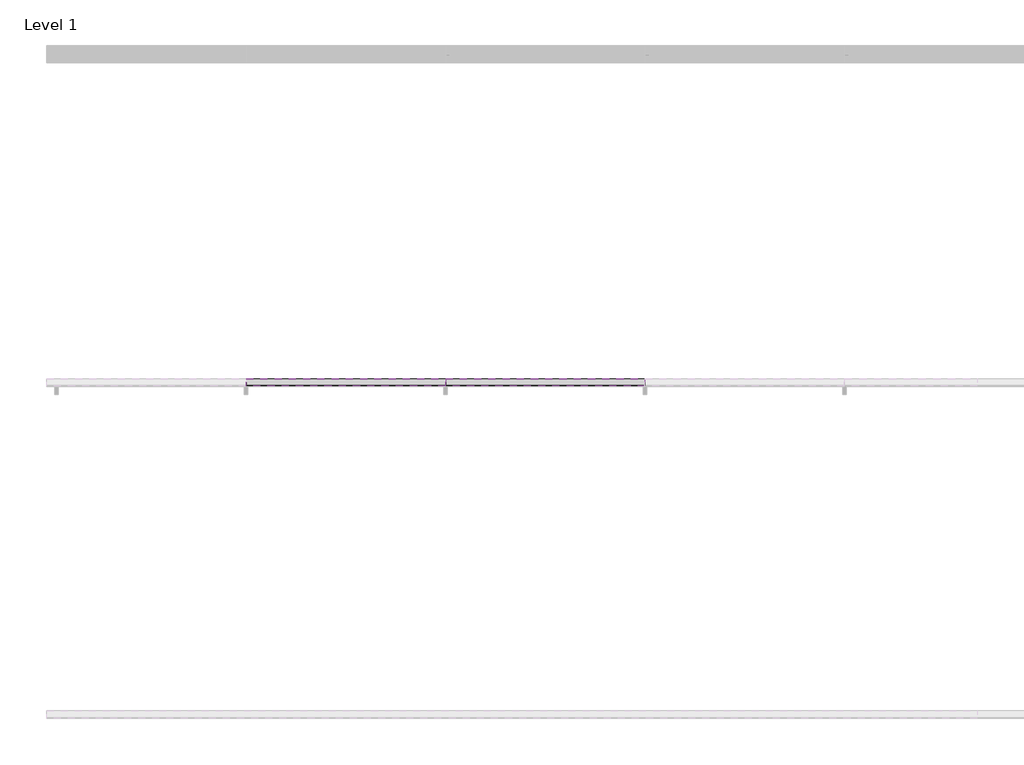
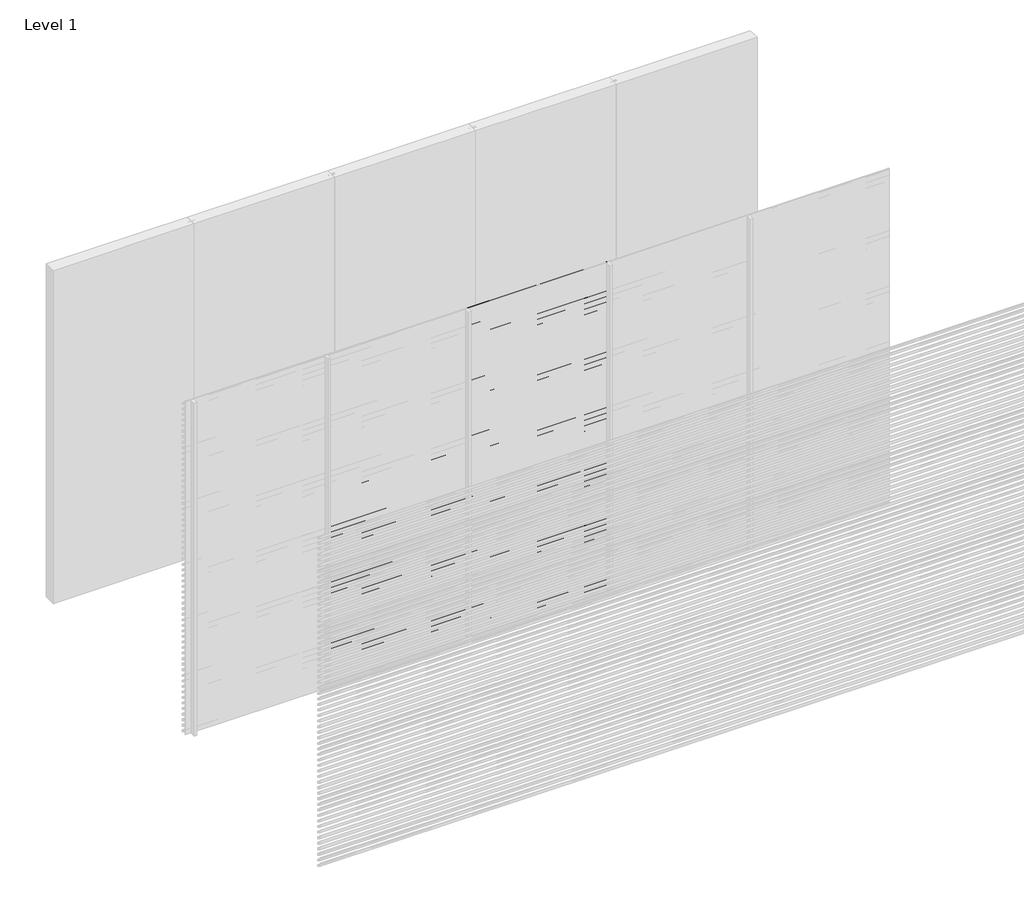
# One storey, part 11 of 16: 94 proxies.
"""IFC4 building model written with IfcOpenShell, lengths in millimetres."""

from ifc_helpers import new_model, si_unit, frame, origin, place, context, project, spatial, polyline, outline, extrude, element, save

model = new_model("IFC4")

# Units and contexts
model_context = context("Model", 3, world=origin())
ifc_project = project(units=[si_unit("LENGTHUNIT", "METRE", prefix="MILLI")], contexts=[model_context])

# Site, building, storey
site = spatial("IfcSite", under=ifc_project)
building = spatial("IfcBuilding", under=site)
storey = spatial("IfcBuildingStorey", under=building, Name="Level 1", Elevation=0.0)

# Proxies
placement = place(None, origin())
element("IfcBuildingElementProxy", 1, Name="Wall Sweeps", at=placement, inside=storey, context=model_context, shape_type="SweptSolid", body=[
    extrude(outline(polyline([(-5995.0, 1750.0), (-5995.0, 1739.6352854), (-5954.0, 1715.0), (-5954.0, 1700.0), (-5997.0, 1725.8370066), (-5997.0, 1750.0), (-5995.0, 1750.0)])), frame((1200.0, 0.0, 0.0), z_axis=(1.0, 0.0, 0.0), x_axis=(0.0, 1.0, 0.0)), (0.0, 0.0, 1.0), 1200.0),
])
element("IfcBuildingElementProxy", 2, Name="Wall Sweeps", at=placement, inside=storey, context=model_context, shape_type="SweptSolid", body=[
    extrude(outline(polyline([(-5995.0, 1700.0), (-5995.0, 1689.6352854), (-5954.0, 1665.0), (-5954.0, 1650.0), (-5997.0, 1675.8370066), (-5997.0, 1700.0), (-5995.0, 1700.0)])), frame((1200.0, 0.0, 0.0), z_axis=(1.0, 0.0, 0.0), x_axis=(0.0, 1.0, 0.0)), (0.0, 0.0, 1.0), 1200.0),
])
element("IfcBuildingElementProxy", 3, Name="Wall Sweeps", at=placement, inside=storey, context=model_context, shape_type="SweptSolid", body=[
    extrude(outline(polyline([(-5995.0, 1650.0), (-5995.0, 1639.6352854), (-5954.0, 1615.0), (-5954.0, 1600.0), (-5997.0, 1625.8370066), (-5997.0, 1650.0), (-5995.0, 1650.0)])), frame((1200.0, 0.0, 0.0), z_axis=(1.0, 0.0, 0.0), x_axis=(0.0, 1.0, 0.0)), (0.0, 0.0, 1.0), 1200.0),
])
element("IfcBuildingElementProxy", 4, Name="Wall Sweeps", at=placement, inside=storey, context=model_context, shape_type="SweptSolid", body=[
    extrude(outline(polyline([(-5995.0, 1600.0), (-5995.0, 1589.6352854), (-5954.0, 1565.0), (-5954.0, 1550.0), (-5997.0, 1575.8370066), (-5997.0, 1600.0), (-5995.0, 1600.0)])), frame((1200.0, 0.0, 0.0), z_axis=(1.0, 0.0, 0.0), x_axis=(0.0, 1.0, 0.0)), (0.0, 0.0, 1.0), 1200.0),
])
element("IfcBuildingElementProxy", 5, Name="Wall Sweeps", at=placement, inside=storey, context=model_context, shape_type="SweptSolid", body=[
    extrude(outline(polyline([(-5995.0, 1550.0), (-5995.0, 1539.6352854), (-5954.0, 1515.0), (-5954.0, 1500.0), (-5997.0, 1525.8370066), (-5997.0, 1550.0), (-5995.0, 1550.0)])), frame((1200.0, 0.0, 0.0), z_axis=(1.0, 0.0, 0.0), x_axis=(0.0, 1.0, 0.0)), (0.0, 0.0, 1.0), 1200.0),
])
element("IfcBuildingElementProxy", 6, Name="Wall Sweeps", at=placement, inside=storey, context=model_context, shape_type="SweptSolid", body=[
    extrude(outline(polyline([(-5995.0, 1500.0), (-5995.0, 1489.6352854), (-5954.0, 1465.0), (-5954.0, 1450.0), (-5997.0, 1475.8370066), (-5997.0, 1500.0), (-5995.0, 1500.0)])), frame((1200.0, 0.0, 0.0), z_axis=(1.0, 0.0, 0.0), x_axis=(0.0, 1.0, 0.0)), (0.0, 0.0, 1.0), 1200.0),
])
element("IfcBuildingElementProxy", 7, Name="Wall Sweeps", at=placement, inside=storey, context=model_context, shape_type="SweptSolid", body=[
    extrude(outline(polyline([(-5995.0, 1450.0), (-5995.0, 1439.6352854), (-5954.0, 1415.0), (-5954.0, 1400.0), (-5997.0, 1425.8370066), (-5997.0, 1450.0), (-5995.0, 1450.0)])), frame((1200.0, 0.0, 0.0), z_axis=(1.0, 0.0, 0.0), x_axis=(0.0, 1.0, 0.0)), (0.0, 0.0, 1.0), 1200.0),
])
element("IfcBuildingElementProxy", 8, Name="Wall Sweeps", at=placement, inside=storey, context=model_context, shape_type="SweptSolid", body=[
    extrude(outline(polyline([(-5995.0, 1400.0), (-5995.0, 1389.6352854), (-5954.0, 1365.0), (-5954.0, 1350.0), (-5997.0, 1375.8370066), (-5997.0, 1400.0), (-5995.0, 1400.0)])), frame((1200.0, 0.0, 0.0), z_axis=(1.0, 0.0, 0.0), x_axis=(0.0, 1.0, 0.0)), (0.0, 0.0, 1.0), 1200.0),
])
element("IfcBuildingElementProxy", 9, Name="Wall Sweeps", at=placement, inside=storey, context=model_context, shape_type="SweptSolid", body=[
    extrude(outline(polyline([(-5995.0, 1350.0), (-5995.0, 1339.6352854), (-5954.0, 1315.0), (-5954.0, 1300.0), (-5997.0, 1325.8370066), (-5997.0, 1350.0), (-5995.0, 1350.0)])), frame((1200.0, 0.0, 0.0), z_axis=(1.0, 0.0, 0.0), x_axis=(0.0, 1.0, 0.0)), (0.0, 0.0, 1.0), 1200.0),
])
element("IfcBuildingElementProxy", 10, Name="Wall Sweeps", at=placement, inside=storey, context=model_context, shape_type="SweptSolid", body=[
    extrude(outline(polyline([(-5995.0, 1300.0), (-5995.0, 1289.6352854), (-5954.0, 1265.0), (-5954.0, 1250.0), (-5997.0, 1275.8370066), (-5997.0, 1300.0), (-5995.0, 1300.0)])), frame((1200.0, 0.0, 0.0), z_axis=(1.0, 0.0, 0.0), x_axis=(0.0, 1.0, 0.0)), (0.0, 0.0, 1.0), 1200.0),
])
element("IfcBuildingElementProxy", 11, Name="Wall Sweeps", at=placement, inside=storey, context=model_context, shape_type="SweptSolid", body=[
    extrude(outline(polyline([(-5995.0, 1250.0), (-5995.0, 1239.6352854), (-5954.0, 1215.0), (-5954.0, 1200.0), (-5997.0, 1225.8370066), (-5997.0, 1250.0), (-5995.0, 1250.0)])), frame((1200.0, 0.0, 0.0), z_axis=(1.0, 0.0, 0.0), x_axis=(0.0, 1.0, 0.0)), (0.0, 0.0, 1.0), 1200.0),
])
element("IfcBuildingElementProxy", 12, Name="Wall Sweeps", at=placement, inside=storey, context=model_context, shape_type="SweptSolid", body=[
    extrude(outline(polyline([(-5995.0, 1200.0), (-5995.0, 1189.6352854), (-5954.0, 1165.0), (-5954.0, 1150.0), (-5997.0, 1175.8370066), (-5997.0, 1200.0), (-5995.0, 1200.0)])), frame((1200.0, 0.0, 0.0), z_axis=(1.0, 0.0, 0.0), x_axis=(0.0, 1.0, 0.0)), (0.0, 0.0, 1.0), 1200.0),
])
element("IfcBuildingElementProxy", 13, Name="Wall Sweeps", at=placement, inside=storey, context=model_context, shape_type="SweptSolid", body=[
    extrude(outline(polyline([(-5995.0, 1150.0), (-5995.0, 1139.6352854), (-5954.0, 1115.0), (-5954.0, 1100.0), (-5997.0, 1125.8370066), (-5997.0, 1150.0), (-5995.0, 1150.0)])), frame((1200.0, 0.0, 0.0), z_axis=(1.0, 0.0, 0.0), x_axis=(0.0, 1.0, 0.0)), (0.0, 0.0, 1.0), 1200.0),
])
element("IfcBuildingElementProxy", 14, Name="Wall Sweeps", at=placement, inside=storey, context=model_context, shape_type="SweptSolid", body=[
    extrude(outline(polyline([(-5995.0, 1100.0), (-5995.0, 1089.6352854), (-5954.0, 1065.0), (-5954.0, 1050.0), (-5997.0, 1075.8370066), (-5997.0, 1100.0), (-5995.0, 1100.0)])), frame((1200.0, 0.0, 0.0), z_axis=(1.0, 0.0, 0.0), x_axis=(0.0, 1.0, 0.0)), (0.0, 0.0, 1.0), 1200.0),
])
element("IfcBuildingElementProxy", 15, Name="Wall Sweeps", at=placement, inside=storey, context=model_context, shape_type="SweptSolid", body=[
    extrude(outline(polyline([(-5995.0, 1050.0), (-5995.0, 1039.6352854), (-5954.0, 1015.0), (-5954.0, 1000.0), (-5997.0, 1025.8370066), (-5997.0, 1050.0), (-5995.0, 1050.0)])), frame((1200.0, 0.0, 0.0), z_axis=(1.0, 0.0, 0.0), x_axis=(0.0, 1.0, 0.0)), (0.0, 0.0, 1.0), 1200.0),
])
element("IfcBuildingElementProxy", 16, Name="Wall Sweeps", at=placement, inside=storey, context=model_context, shape_type="SweptSolid", body=[
    extrude(outline(polyline([(-5995.0, 1000.0), (-5995.0, 989.6352854), (-5954.0, 965.0), (-5954.0, 950.0), (-5997.0, 975.8370066), (-5997.0, 1000.0), (-5995.0, 1000.0)])), frame((1200.0, 0.0, 0.0), z_axis=(1.0, 0.0, 0.0), x_axis=(0.0, 1.0, 0.0)), (0.0, 0.0, 1.0), 1200.0),
])
element("IfcBuildingElementProxy", 17, Name="Wall Sweeps", at=placement, inside=storey, context=model_context, shape_type="SweptSolid", body=[
    extrude(outline(polyline([(-5995.0, 950.0), (-5995.0, 939.6352854), (-5954.0, 915.0), (-5954.0, 900.0), (-5997.0, 925.8370066), (-5997.0, 950.0), (-5995.0, 950.0)])), frame((1200.0, 0.0, 0.0), z_axis=(1.0, 0.0, 0.0), x_axis=(0.0, 1.0, 0.0)), (0.0, 0.0, 1.0), 1200.0),
])
element("IfcBuildingElementProxy", 18, Name="Wall Sweeps", at=placement, inside=storey, context=model_context, shape_type="SweptSolid", body=[
    extrude(outline(polyline([(-5995.0, 900.0), (-5995.0, 889.6352854), (-5954.0, 865.0), (-5954.0, 850.0), (-5997.0, 875.8370066), (-5997.0, 900.0), (-5995.0, 900.0)])), frame((1200.0, 0.0, 0.0), z_axis=(1.0, 0.0, 0.0), x_axis=(0.0, 1.0, 0.0)), (0.0, 0.0, 1.0), 1200.0),
])
element("IfcBuildingElementProxy", 19, Name="Wall Sweeps", at=placement, inside=storey, context=model_context, shape_type="SweptSolid", body=[
    extrude(outline(polyline([(-5995.0, 850.0), (-5995.0, 839.6352854), (-5954.0, 815.0), (-5954.0, 800.0), (-5997.0, 825.8370066), (-5997.0, 850.0), (-5995.0, 850.0)])), frame((1200.0, 0.0, 0.0), z_axis=(1.0, 0.0, 0.0), x_axis=(0.0, 1.0, 0.0)), (0.0, 0.0, 1.0), 1200.0),
])
element("IfcBuildingElementProxy", 20, Name="Wall Sweeps", at=placement, inside=storey, context=model_context, shape_type="SweptSolid", body=[
    extrude(outline(polyline([(-5995.0, 800.0), (-5995.0, 789.6352854), (-5954.0, 765.0), (-5954.0, 750.0), (-5997.0, 775.8370066), (-5997.0, 800.0), (-5995.0, 800.0)])), frame((1200.0, 0.0, 0.0), z_axis=(1.0, 0.0, 0.0), x_axis=(0.0, 1.0, 0.0)), (0.0, 0.0, 1.0), 1200.0),
])
element("IfcBuildingElementProxy", 21, Name="Wall Sweeps", at=placement, inside=storey, context=model_context, shape_type="SweptSolid", body=[
    extrude(outline(polyline([(-5995.0, 750.0), (-5995.0, 739.6352854), (-5954.0, 715.0), (-5954.0, 700.0), (-5997.0, 725.8370066), (-5997.0, 750.0), (-5995.0, 750.0)])), frame((1200.0, 0.0, 0.0), z_axis=(1.0, 0.0, 0.0), x_axis=(0.0, 1.0, 0.0)), (0.0, 0.0, 1.0), 1200.0),
])
element("IfcBuildingElementProxy", 22, Name="Wall Sweeps", at=placement, inside=storey, context=model_context, shape_type="SweptSolid", body=[
    extrude(outline(polyline([(-5995.0, 700.0), (-5995.0, 689.6352854), (-5954.0, 665.0), (-5954.0, 650.0), (-5997.0, 675.8370066), (-5997.0, 700.0), (-5995.0, 700.0)])), frame((1200.0, 0.0, 0.0), z_axis=(1.0, 0.0, 0.0), x_axis=(0.0, 1.0, 0.0)), (0.0, 0.0, 1.0), 1200.0),
])
element("IfcBuildingElementProxy", 23, Name="Wall Sweeps", at=placement, inside=storey, context=model_context, shape_type="SweptSolid", body=[
    extrude(outline(polyline([(-5995.0, 650.0), (-5995.0, 639.6352854), (-5954.0, 615.0), (-5954.0, 600.0), (-5997.0, 625.8370066), (-5997.0, 650.0), (-5995.0, 650.0)])), frame((1200.0, 0.0, 0.0), z_axis=(1.0, 0.0, 0.0), x_axis=(0.0, 1.0, 0.0)), (0.0, 0.0, 1.0), 1200.0),
])
element("IfcBuildingElementProxy", 24, Name="Wall Sweeps", at=placement, inside=storey, context=model_context, shape_type="SweptSolid", body=[
    extrude(outline(polyline([(-5995.0, 600.0), (-5995.0, 589.6352854), (-5954.0, 565.0), (-5954.0, 550.0), (-5997.0, 575.8370066), (-5997.0, 600.0), (-5995.0, 600.0)])), frame((1200.0, 0.0, 0.0), z_axis=(1.0, 0.0, 0.0), x_axis=(0.0, 1.0, 0.0)), (0.0, 0.0, 1.0), 1200.0),
])
element("IfcBuildingElementProxy", 25, Name="Wall Sweeps", at=placement, inside=storey, context=model_context, shape_type="SweptSolid", body=[
    extrude(outline(polyline([(-5995.0, 550.0), (-5995.0, 539.6352854), (-5954.0, 515.0), (-5954.0, 500.0), (-5997.0, 525.8370066), (-5997.0, 550.0), (-5995.0, 550.0)])), frame((1200.0, 0.0, 0.0), z_axis=(1.0, 0.0, 0.0), x_axis=(0.0, 1.0, 0.0)), (0.0, 0.0, 1.0), 1200.0),
])
element("IfcBuildingElementProxy", 26, Name="Wall Sweeps", at=placement, inside=storey, context=model_context, shape_type="SweptSolid", body=[
    extrude(outline(polyline([(-5995.0, 500.0), (-5995.0, 489.6352854), (-5954.0, 465.0), (-5954.0, 450.0), (-5997.0, 475.8370066), (-5997.0, 500.0), (-5995.0, 500.0)])), frame((1200.0, 0.0, 0.0), z_axis=(1.0, 0.0, 0.0), x_axis=(0.0, 1.0, 0.0)), (0.0, 0.0, 1.0), 1200.0),
])
element("IfcBuildingElementProxy", 27, Name="Wall Sweeps", at=placement, inside=storey, context=model_context, shape_type="SweptSolid", body=[
    extrude(outline(polyline([(-5995.0, 450.0), (-5995.0, 439.6352854), (-5954.0, 415.0), (-5954.0, 400.0), (-5997.0, 425.8370066), (-5997.0, 450.0), (-5995.0, 450.0)])), frame((1200.0, 0.0, 0.0), z_axis=(1.0, 0.0, 0.0), x_axis=(0.0, 1.0, 0.0)), (0.0, 0.0, 1.0), 1200.0),
])
element("IfcBuildingElementProxy", 28, Name="Wall Sweeps", at=placement, inside=storey, context=model_context, shape_type="SweptSolid", body=[
    extrude(outline(polyline([(-5995.0, 400.0), (-5995.0, 389.6352854), (-5954.0, 365.0), (-5954.0, 350.0), (-5997.0, 375.8370066), (-5997.0, 400.0), (-5995.0, 400.0)])), frame((1200.0, 0.0, 0.0), z_axis=(1.0, 0.0, 0.0), x_axis=(0.0, 1.0, 0.0)), (0.0, 0.0, 1.0), 1200.0),
])
element("IfcBuildingElementProxy", 29, Name="Wall Sweeps", at=placement, inside=storey, context=model_context, shape_type="SweptSolid", body=[
    extrude(outline(polyline([(-5995.0, 350.0), (-5995.0, 339.6352854), (-5954.0, 315.0), (-5954.0, 300.0), (-5997.0, 325.8370066), (-5997.0, 350.0), (-5995.0, 350.0)])), frame((1200.0, 0.0, 0.0), z_axis=(1.0, 0.0, 0.0), x_axis=(0.0, 1.0, 0.0)), (0.0, 0.0, 1.0), 1200.0),
])
element("IfcBuildingElementProxy", 30, Name="Wall Sweeps", at=placement, inside=storey, context=model_context, shape_type="SweptSolid", body=[
    extrude(outline(polyline([(-5995.0, 300.0), (-5995.0, 289.6352854), (-5954.0, 265.0), (-5954.0, 250.0), (-5997.0, 275.8370066), (-5997.0, 300.0), (-5995.0, 300.0)])), frame((1200.0, 0.0, 0.0), z_axis=(1.0, 0.0, 0.0), x_axis=(0.0, 1.0, 0.0)), (0.0, 0.0, 1.0), 1200.0),
])
element("IfcBuildingElementProxy", 31, Name="Wall Sweeps", at=placement, inside=storey, context=model_context, shape_type="SweptSolid", body=[
    extrude(outline(polyline([(-5995.0, 250.0), (-5995.0, 239.6352854), (-5954.0, 215.0), (-5954.0, 200.0), (-5997.0, 225.8370066), (-5997.0, 250.0), (-5995.0, 250.0)])), frame((1200.0, 0.0, 0.0), z_axis=(1.0, 0.0, 0.0), x_axis=(0.0, 1.0, 0.0)), (0.0, 0.0, 1.0), 1200.0),
])
element("IfcBuildingElementProxy", 32, Name="Wall Sweeps", at=placement, inside=storey, context=model_context, shape_type="SweptSolid", body=[
    extrude(outline(polyline([(-5995.0, 200.0), (-5995.0, 189.6352854), (-5954.0, 165.0), (-5954.0, 150.0), (-5997.0, 175.8370066), (-5997.0, 200.0), (-5995.0, 200.0)])), frame((1200.0, 0.0, 0.0), z_axis=(1.0, 0.0, 0.0), x_axis=(0.0, 1.0, 0.0)), (0.0, 0.0, 1.0), 1200.0),
])
element("IfcBuildingElementProxy", 33, Name="Wall Sweeps", at=placement, inside=storey, context=model_context, shape_type="SweptSolid", body=[
    extrude(outline(polyline([(-5995.0, 150.0), (-5995.0, 139.6352854), (-5954.0, 115.0), (-5954.0, 100.0), (-5997.0, 125.8370066), (-5997.0, 150.0), (-5995.0, 150.0)])), frame((1200.0, 0.0, 0.0), z_axis=(1.0, 0.0, 0.0), x_axis=(0.0, 1.0, 0.0)), (0.0, 0.0, 1.0), 1200.0),
])
element("IfcBuildingElementProxy", 34, Name="Wall Sweeps", at=placement, inside=storey, context=model_context, shape_type="SweptSolid", body=[
    extrude(outline(polyline([(-5995.0, 100.0), (-5995.0, 89.6352854), (-5954.0, 65.0), (-5954.0, 50.0), (-5997.0, 75.8370066), (-5997.0, 100.0), (-5995.0, 100.0)])), frame((1200.0, 0.0, 0.0), z_axis=(1.0, 0.0, 0.0), x_axis=(0.0, 1.0, 0.0)), (0.0, 0.0, 1.0), 1200.0),
])
element("IfcBuildingElementProxy", 35, Name="Wall Sweeps", at=placement, inside=storey, context=model_context, shape_type="SweptSolid", body=[
    extrude(outline(polyline([(-5995.0, 50.0), (-5995.0, 39.6352854), (-5954.0, 15.0), (-5954.0, 0.0), (-5997.0, 25.8370066), (-5997.0, 50.0), (-5995.0, 50.0)])), frame((1200.0, 0.0, 0.0), z_axis=(1.0, 0.0, 0.0), x_axis=(0.0, 1.0, 0.0)), (0.0, 0.0, 1.0), 1200.0),
])
element("IfcBuildingElementProxy", 36, Name="Wall Sweeps", at=placement, inside=storey, context=model_context, shape_type="SweptSolid", body=[
    extrude(outline(polyline([(-5995.0, 3000.0), (-5995.0, 2989.6352854), (-5954.0, 2965.0), (-5954.0, 2950.0), (-5997.0, 2975.8370066), (-5997.0, 3000.0), (-5995.0, 3000.0)])), frame((2400.0, 0.0, 0.0), z_axis=(1.0, 0.0, 0.0), x_axis=(0.0, 1.0, 0.0)), (0.0, 0.0, 1.0), 1200.0),
])
element("IfcBuildingElementProxy", 37, Name="Wall Sweeps", at=placement, inside=storey, context=model_context, shape_type="SweptSolid", body=[
    extrude(outline(polyline([(-5995.0, 2950.0), (-5995.0, 2939.6352854), (-5954.0, 2915.0), (-5954.0, 2900.0), (-5997.0, 2925.8370066), (-5997.0, 2950.0), (-5995.0, 2950.0)])), frame((2400.0, 0.0, 0.0), z_axis=(1.0, 0.0, 0.0), x_axis=(0.0, 1.0, 0.0)), (0.0, 0.0, 1.0), 1200.0),
])
element("IfcBuildingElementProxy", 38, Name="Wall Sweeps", at=placement, inside=storey, context=model_context, shape_type="SweptSolid", body=[
    extrude(outline(polyline([(-5995.0, 2900.0), (-5995.0, 2889.6352854), (-5954.0, 2865.0), (-5954.0, 2850.0), (-5997.0, 2875.8370066), (-5997.0, 2900.0), (-5995.0, 2900.0)])), frame((2400.0, 0.0, 0.0), z_axis=(1.0, 0.0, 0.0), x_axis=(0.0, 1.0, 0.0)), (0.0, 0.0, 1.0), 1200.0),
])
element("IfcBuildingElementProxy", 39, Name="Wall Sweeps", at=placement, inside=storey, context=model_context, shape_type="SweptSolid", body=[
    extrude(outline(polyline([(-5995.0, 2850.0), (-5995.0, 2839.6352854), (-5954.0, 2815.0), (-5954.0, 2800.0), (-5997.0, 2825.8370066), (-5997.0, 2850.0), (-5995.0, 2850.0)])), frame((2400.0, 0.0, 0.0), z_axis=(1.0, 0.0, 0.0), x_axis=(0.0, 1.0, 0.0)), (0.0, 0.0, 1.0), 1200.0),
])
element("IfcBuildingElementProxy", 40, Name="Wall Sweeps", at=placement, inside=storey, context=model_context, shape_type="SweptSolid", body=[
    extrude(outline(polyline([(-5995.0, 2800.0), (-5995.0, 2789.6352854), (-5954.0, 2765.0), (-5954.0, 2750.0), (-5997.0, 2775.8370066), (-5997.0, 2800.0), (-5995.0, 2800.0)])), frame((2400.0, 0.0, 0.0), z_axis=(1.0, 0.0, 0.0), x_axis=(0.0, 1.0, 0.0)), (0.0, 0.0, 1.0), 1200.0),
])
element("IfcBuildingElementProxy", 41, Name="Wall Sweeps", at=placement, inside=storey, context=model_context, shape_type="SweptSolid", body=[
    extrude(outline(polyline([(-5995.0, 2750.0), (-5995.0, 2739.6352854), (-5954.0, 2715.0), (-5954.0, 2700.0), (-5997.0, 2725.8370066), (-5997.0, 2750.0), (-5995.0, 2750.0)])), frame((2400.0, 0.0, 0.0), z_axis=(1.0, 0.0, 0.0), x_axis=(0.0, 1.0, 0.0)), (0.0, 0.0, 1.0), 1200.0),
])
element("IfcBuildingElementProxy", 42, Name="Wall Sweeps", at=placement, inside=storey, context=model_context, shape_type="SweptSolid", body=[
    extrude(outline(polyline([(-5995.0, 2700.0), (-5995.0, 2689.6352854), (-5954.0, 2665.0), (-5954.0, 2650.0), (-5997.0, 2675.8370066), (-5997.0, 2700.0), (-5995.0, 2700.0)])), frame((2400.0, 0.0, 0.0), z_axis=(1.0, 0.0, 0.0), x_axis=(0.0, 1.0, 0.0)), (0.0, 0.0, 1.0), 1200.0),
])
element("IfcBuildingElementProxy", 43, Name="Wall Sweeps", at=placement, inside=storey, context=model_context, shape_type="SweptSolid", body=[
    extrude(outline(polyline([(-5995.0, 2650.0), (-5995.0, 2639.6352854), (-5954.0, 2615.0), (-5954.0, 2600.0), (-5997.0, 2625.8370066), (-5997.0, 2650.0), (-5995.0, 2650.0)])), frame((2400.0, 0.0, 0.0), z_axis=(1.0, 0.0, 0.0), x_axis=(0.0, 1.0, 0.0)), (0.0, 0.0, 1.0), 1200.0),
])
element("IfcBuildingElementProxy", 44, Name="Wall Sweeps", at=placement, inside=storey, context=model_context, shape_type="SweptSolid", body=[
    extrude(outline(polyline([(-5995.0, 2600.0), (-5995.0, 2589.6352854), (-5954.0, 2565.0), (-5954.0, 2550.0), (-5997.0, 2575.8370066), (-5997.0, 2600.0), (-5995.0, 2600.0)])), frame((2400.0, 0.0, 0.0), z_axis=(1.0, 0.0, 0.0), x_axis=(0.0, 1.0, 0.0)), (0.0, 0.0, 1.0), 1200.0),
])
element("IfcBuildingElementProxy", 45, Name="Wall Sweeps", at=placement, inside=storey, context=model_context, shape_type="SweptSolid", body=[
    extrude(outline(polyline([(-5995.0, 2550.0), (-5995.0, 2539.6352854), (-5954.0, 2515.0), (-5954.0, 2500.0), (-5997.0, 2525.8370066), (-5997.0, 2550.0), (-5995.0, 2550.0)])), frame((2400.0, 0.0, 0.0), z_axis=(1.0, 0.0, 0.0), x_axis=(0.0, 1.0, 0.0)), (0.0, 0.0, 1.0), 1200.0),
])
element("IfcBuildingElementProxy", 46, Name="Wall Sweeps", at=placement, inside=storey, context=model_context, shape_type="SweptSolid", body=[
    extrude(outline(polyline([(-5995.0, 2500.0), (-5995.0, 2489.6352854), (-5954.0, 2465.0), (-5954.0, 2450.0), (-5997.0, 2475.8370066), (-5997.0, 2500.0), (-5995.0, 2500.0)])), frame((2400.0, 0.0, 0.0), z_axis=(1.0, 0.0, 0.0), x_axis=(0.0, 1.0, 0.0)), (0.0, 0.0, 1.0), 1200.0),
])
element("IfcBuildingElementProxy", 47, Name="Wall Sweeps", at=placement, inside=storey, context=model_context, shape_type="SweptSolid", body=[
    extrude(outline(polyline([(-5995.0, 2450.0), (-5995.0, 2439.6352854), (-5954.0, 2415.0), (-5954.0, 2400.0), (-5997.0, 2425.8370066), (-5997.0, 2450.0), (-5995.0, 2450.0)])), frame((2400.0, 0.0, 0.0), z_axis=(1.0, 0.0, 0.0), x_axis=(0.0, 1.0, 0.0)), (0.0, 0.0, 1.0), 1200.0),
])
element("IfcBuildingElementProxy", 48, Name="Wall Sweeps", at=placement, inside=storey, context=model_context, shape_type="SweptSolid", body=[
    extrude(outline(polyline([(-5995.0, 2400.0), (-5995.0, 2389.6352854), (-5954.0, 2365.0), (-5954.0, 2350.0), (-5997.0, 2375.8370066), (-5997.0, 2400.0), (-5995.0, 2400.0)])), frame((2400.0, 0.0, 0.0), z_axis=(1.0, 0.0, 0.0), x_axis=(0.0, 1.0, 0.0)), (0.0, 0.0, 1.0), 1200.0),
])
element("IfcBuildingElementProxy", 49, Name="Wall Sweeps", at=placement, inside=storey, context=model_context, shape_type="SweptSolid", body=[
    extrude(outline(polyline([(-5995.0, 2350.0), (-5995.0, 2339.6352854), (-5954.0, 2315.0), (-5954.0, 2300.0), (-5997.0, 2325.8370066), (-5997.0, 2350.0), (-5995.0, 2350.0)])), frame((2400.0, 0.0, 0.0), z_axis=(1.0, 0.0, 0.0), x_axis=(0.0, 1.0, 0.0)), (0.0, 0.0, 1.0), 1200.0),
])
element("IfcBuildingElementProxy", 50, Name="Wall Sweeps", at=placement, inside=storey, context=model_context, shape_type="SweptSolid", body=[
    extrude(outline(polyline([(-5995.0, 2300.0), (-5995.0, 2289.6352854), (-5954.0, 2265.0), (-5954.0, 2250.0), (-5997.0, 2275.8370066), (-5997.0, 2300.0), (-5995.0, 2300.0)])), frame((2400.0, 0.0, 0.0), z_axis=(1.0, 0.0, 0.0), x_axis=(0.0, 1.0, 0.0)), (0.0, 0.0, 1.0), 1200.0),
])
element("IfcBuildingElementProxy", 51, Name="Wall Sweeps", at=placement, inside=storey, context=model_context, shape_type="SweptSolid", body=[
    extrude(outline(polyline([(-5995.0, 2250.0), (-5995.0, 2239.6352854), (-5954.0, 2215.0), (-5954.0, 2200.0), (-5997.0, 2225.8370066), (-5997.0, 2250.0), (-5995.0, 2250.0)])), frame((2400.0, 0.0, 0.0), z_axis=(1.0, 0.0, 0.0), x_axis=(0.0, 1.0, 0.0)), (0.0, 0.0, 1.0), 1200.0),
])
element("IfcBuildingElementProxy", 52, Name="Wall Sweeps", at=placement, inside=storey, context=model_context, shape_type="SweptSolid", body=[
    extrude(outline(polyline([(-5995.0, 2200.0), (-5995.0, 2189.6352854), (-5954.0, 2165.0), (-5954.0, 2150.0), (-5997.0, 2175.8370066), (-5997.0, 2200.0), (-5995.0, 2200.0)])), frame((2400.0, 0.0, 0.0), z_axis=(1.0, 0.0, 0.0), x_axis=(0.0, 1.0, 0.0)), (0.0, 0.0, 1.0), 1200.0),
])
element("IfcBuildingElementProxy", 53, Name="Wall Sweeps", at=placement, inside=storey, context=model_context, shape_type="SweptSolid", body=[
    extrude(outline(polyline([(-5995.0, 2150.0), (-5995.0, 2139.6352854), (-5954.0, 2115.0), (-5954.0, 2100.0), (-5997.0, 2125.8370066), (-5997.0, 2150.0), (-5995.0, 2150.0)])), frame((2400.0, 0.0, 0.0), z_axis=(1.0, 0.0, 0.0), x_axis=(0.0, 1.0, 0.0)), (0.0, 0.0, 1.0), 1200.0),
])
element("IfcBuildingElementProxy", 54, Name="Wall Sweeps", at=placement, inside=storey, context=model_context, shape_type="SweptSolid", body=[
    extrude(outline(polyline([(-5995.0, 2100.0), (-5995.0, 2089.6352854), (-5954.0, 2065.0), (-5954.0, 2050.0), (-5997.0, 2075.8370066), (-5997.0, 2100.0), (-5995.0, 2100.0)])), frame((2400.0, 0.0, 0.0), z_axis=(1.0, 0.0, 0.0), x_axis=(0.0, 1.0, 0.0)), (0.0, 0.0, 1.0), 1200.0),
])
element("IfcBuildingElementProxy", 55, Name="Wall Sweeps", at=placement, inside=storey, context=model_context, shape_type="SweptSolid", body=[
    extrude(outline(polyline([(-5995.0, 2050.0), (-5995.0, 2039.6352854), (-5954.0, 2015.0), (-5954.0, 2000.0), (-5997.0, 2025.8370066), (-5997.0, 2050.0), (-5995.0, 2050.0)])), frame((2400.0, 0.0, 0.0), z_axis=(1.0, 0.0, 0.0), x_axis=(0.0, 1.0, 0.0)), (0.0, 0.0, 1.0), 1200.0),
])
element("IfcBuildingElementProxy", 56, Name="Wall Sweeps", at=placement, inside=storey, context=model_context, shape_type="SweptSolid", body=[
    extrude(outline(polyline([(-5995.0, 2000.0), (-5995.0, 1989.6352854), (-5954.0, 1965.0), (-5954.0, 1950.0), (-5997.0, 1975.8370066), (-5997.0, 2000.0), (-5995.0, 2000.0)])), frame((2400.0, 0.0, 0.0), z_axis=(1.0, 0.0, 0.0), x_axis=(0.0, 1.0, 0.0)), (0.0, 0.0, 1.0), 1200.0),
])
element("IfcBuildingElementProxy", 57, Name="Wall Sweeps", at=placement, inside=storey, context=model_context, shape_type="SweptSolid", body=[
    extrude(outline(polyline([(-5995.0, 1950.0), (-5995.0, 1939.6352854), (-5954.0, 1915.0), (-5954.0, 1900.0), (-5997.0, 1925.8370066), (-5997.0, 1950.0), (-5995.0, 1950.0)])), frame((2400.0, 0.0, 0.0), z_axis=(1.0, 0.0, 0.0), x_axis=(0.0, 1.0, 0.0)), (0.0, 0.0, 1.0), 1200.0),
])
element("IfcBuildingElementProxy", 58, Name="Wall Sweeps", at=placement, inside=storey, context=model_context, shape_type="SweptSolid", body=[
    extrude(outline(polyline([(-5995.0, 1900.0), (-5995.0, 1889.6352854), (-5954.0, 1865.0), (-5954.0, 1850.0), (-5997.0, 1875.8370066), (-5997.0, 1900.0), (-5995.0, 1900.0)])), frame((2400.0, 0.0, 0.0), z_axis=(1.0, 0.0, 0.0), x_axis=(0.0, 1.0, 0.0)), (0.0, 0.0, 1.0), 1200.0),
])
element("IfcBuildingElementProxy", 59, Name="Wall Sweeps", at=placement, inside=storey, context=model_context, shape_type="SweptSolid", body=[
    extrude(outline(polyline([(-5995.0, 1850.0), (-5995.0, 1839.6352854), (-5954.0, 1815.0), (-5954.0, 1800.0), (-5997.0, 1825.8370066), (-5997.0, 1850.0), (-5995.0, 1850.0)])), frame((2400.0, 0.0, 0.0), z_axis=(1.0, 0.0, 0.0), x_axis=(0.0, 1.0, 0.0)), (0.0, 0.0, 1.0), 1200.0),
])
element("IfcBuildingElementProxy", 60, Name="Wall Sweeps", at=placement, inside=storey, context=model_context, shape_type="SweptSolid", body=[
    extrude(outline(polyline([(-5995.0, 1800.0), (-5995.0, 1789.6352854), (-5954.0, 1765.0), (-5954.0, 1750.0), (-5997.0, 1775.8370066), (-5997.0, 1800.0), (-5995.0, 1800.0)])), frame((2400.0, 0.0, 0.0), z_axis=(1.0, 0.0, 0.0), x_axis=(0.0, 1.0, 0.0)), (0.0, 0.0, 1.0), 1200.0),
])
element("IfcBuildingElementProxy", 61, Name="Wall Sweeps", at=placement, inside=storey, context=model_context, shape_type="SweptSolid", body=[
    extrude(outline(polyline([(-5995.0, 1750.0), (-5995.0, 1739.6352854), (-5954.0, 1715.0), (-5954.0, 1700.0), (-5997.0, 1725.8370066), (-5997.0, 1750.0), (-5995.0, 1750.0)])), frame((2400.0, 0.0, 0.0), z_axis=(1.0, 0.0, 0.0), x_axis=(0.0, 1.0, 0.0)), (0.0, 0.0, 1.0), 1200.0),
])
element("IfcBuildingElementProxy", 62, Name="Wall Sweeps", at=placement, inside=storey, context=model_context, shape_type="SweptSolid", body=[
    extrude(outline(polyline([(-5995.0, 1700.0), (-5995.0, 1689.6352854), (-5954.0, 1665.0), (-5954.0, 1650.0), (-5997.0, 1675.8370066), (-5997.0, 1700.0), (-5995.0, 1700.0)])), frame((2400.0, 0.0, 0.0), z_axis=(1.0, 0.0, 0.0), x_axis=(0.0, 1.0, 0.0)), (0.0, 0.0, 1.0), 1200.0),
])
element("IfcBuildingElementProxy", 63, Name="Wall Sweeps", at=placement, inside=storey, context=model_context, shape_type="SweptSolid", body=[
    extrude(outline(polyline([(-5995.0, 1650.0), (-5995.0, 1639.6352854), (-5954.0, 1615.0), (-5954.0, 1600.0), (-5997.0, 1625.8370066), (-5997.0, 1650.0), (-5995.0, 1650.0)])), frame((2400.0, 0.0, 0.0), z_axis=(1.0, 0.0, 0.0), x_axis=(0.0, 1.0, 0.0)), (0.0, 0.0, 1.0), 1200.0),
])
element("IfcBuildingElementProxy", 64, Name="Wall Sweeps", at=placement, inside=storey, context=model_context, shape_type="SweptSolid", body=[
    extrude(outline(polyline([(-5995.0, 1600.0), (-5995.0, 1589.6352854), (-5954.0, 1565.0), (-5954.0, 1550.0), (-5997.0, 1575.8370066), (-5997.0, 1600.0), (-5995.0, 1600.0)])), frame((2400.0, 0.0, 0.0), z_axis=(1.0, 0.0, 0.0), x_axis=(0.0, 1.0, 0.0)), (0.0, 0.0, 1.0), 1200.0),
])
element("IfcBuildingElementProxy", 65, Name="Wall Sweeps", at=placement, inside=storey, context=model_context, shape_type="SweptSolid", body=[
    extrude(outline(polyline([(-5995.0, 1550.0), (-5995.0, 1539.6352854), (-5954.0, 1515.0), (-5954.0, 1500.0), (-5997.0, 1525.8370066), (-5997.0, 1550.0), (-5995.0, 1550.0)])), frame((2400.0, 0.0, 0.0), z_axis=(1.0, 0.0, 0.0), x_axis=(0.0, 1.0, 0.0)), (0.0, 0.0, 1.0), 1200.0),
])
element("IfcBuildingElementProxy", 66, Name="Wall Sweeps", at=placement, inside=storey, context=model_context, shape_type="SweptSolid", body=[
    extrude(outline(polyline([(-5995.0, 1500.0), (-5995.0, 1489.6352854), (-5954.0, 1465.0), (-5954.0, 1450.0), (-5997.0, 1475.8370066), (-5997.0, 1500.0), (-5995.0, 1500.0)])), frame((2400.0, 0.0, 0.0), z_axis=(1.0, 0.0, 0.0), x_axis=(0.0, 1.0, 0.0)), (0.0, 0.0, 1.0), 1200.0),
])
element("IfcBuildingElementProxy", 67, Name="Wall Sweeps", at=placement, inside=storey, context=model_context, shape_type="SweptSolid", body=[
    extrude(outline(polyline([(-5995.0, 1450.0), (-5995.0, 1439.6352854), (-5954.0, 1415.0), (-5954.0, 1400.0), (-5997.0, 1425.8370066), (-5997.0, 1450.0), (-5995.0, 1450.0)])), frame((2400.0, 0.0, 0.0), z_axis=(1.0, 0.0, 0.0), x_axis=(0.0, 1.0, 0.0)), (0.0, 0.0, 1.0), 1200.0),
])
element("IfcBuildingElementProxy", 68, Name="Wall Sweeps", at=placement, inside=storey, context=model_context, shape_type="SweptSolid", body=[
    extrude(outline(polyline([(-5995.0, 1400.0), (-5995.0, 1389.6352854), (-5954.0, 1365.0), (-5954.0, 1350.0), (-5997.0, 1375.8370066), (-5997.0, 1400.0), (-5995.0, 1400.0)])), frame((2400.0, 0.0, 0.0), z_axis=(1.0, 0.0, 0.0), x_axis=(0.0, 1.0, 0.0)), (0.0, 0.0, 1.0), 1200.0),
])
element("IfcBuildingElementProxy", 69, Name="Wall Sweeps", at=placement, inside=storey, context=model_context, shape_type="SweptSolid", body=[
    extrude(outline(polyline([(-5995.0, 1350.0), (-5995.0, 1339.6352854), (-5954.0, 1315.0), (-5954.0, 1300.0), (-5997.0, 1325.8370066), (-5997.0, 1350.0), (-5995.0, 1350.0)])), frame((2400.0, 0.0, 0.0), z_axis=(1.0, 0.0, 0.0), x_axis=(0.0, 1.0, 0.0)), (0.0, 0.0, 1.0), 1200.0),
])
element("IfcBuildingElementProxy", 70, Name="Wall Sweeps", at=placement, inside=storey, context=model_context, shape_type="SweptSolid", body=[
    extrude(outline(polyline([(-5995.0, 1300.0), (-5995.0, 1289.6352854), (-5954.0, 1265.0), (-5954.0, 1250.0), (-5997.0, 1275.8370066), (-5997.0, 1300.0), (-5995.0, 1300.0)])), frame((2400.0, 0.0, 0.0), z_axis=(1.0, 0.0, 0.0), x_axis=(0.0, 1.0, 0.0)), (0.0, 0.0, 1.0), 1200.0),
])
element("IfcBuildingElementProxy", 71, Name="Wall Sweeps", at=placement, inside=storey, context=model_context, shape_type="SweptSolid", body=[
    extrude(outline(polyline([(-5995.0, 1250.0), (-5995.0, 1239.6352854), (-5954.0, 1215.0), (-5954.0, 1200.0), (-5997.0, 1225.8370066), (-5997.0, 1250.0), (-5995.0, 1250.0)])), frame((2400.0, 0.0, 0.0), z_axis=(1.0, 0.0, 0.0), x_axis=(0.0, 1.0, 0.0)), (0.0, 0.0, 1.0), 1200.0),
])
element("IfcBuildingElementProxy", 72, Name="Wall Sweeps", at=placement, inside=storey, context=model_context, shape_type="SweptSolid", body=[
    extrude(outline(polyline([(-5995.0, 1200.0), (-5995.0, 1189.6352854), (-5954.0, 1165.0), (-5954.0, 1150.0), (-5997.0, 1175.8370066), (-5997.0, 1200.0), (-5995.0, 1200.0)])), frame((2400.0, 0.0, 0.0), z_axis=(1.0, 0.0, 0.0), x_axis=(0.0, 1.0, 0.0)), (0.0, 0.0, 1.0), 1200.0),
])
element("IfcBuildingElementProxy", 73, Name="Wall Sweeps", at=placement, inside=storey, context=model_context, shape_type="SweptSolid", body=[
    extrude(outline(polyline([(-5995.0, 1150.0), (-5995.0, 1139.6352854), (-5954.0, 1115.0), (-5954.0, 1100.0), (-5997.0, 1125.8370066), (-5997.0, 1150.0), (-5995.0, 1150.0)])), frame((2400.0, 0.0, 0.0), z_axis=(1.0, 0.0, 0.0), x_axis=(0.0, 1.0, 0.0)), (0.0, 0.0, 1.0), 1200.0),
])
element("IfcBuildingElementProxy", 74, Name="Wall Sweeps", at=placement, inside=storey, context=model_context, shape_type="SweptSolid", body=[
    extrude(outline(polyline([(-5995.0, 1100.0), (-5995.0, 1089.6352854), (-5954.0, 1065.0), (-5954.0, 1050.0), (-5997.0, 1075.8370066), (-5997.0, 1100.0), (-5995.0, 1100.0)])), frame((2400.0, 0.0, 0.0), z_axis=(1.0, 0.0, 0.0), x_axis=(0.0, 1.0, 0.0)), (0.0, 0.0, 1.0), 1200.0),
])
element("IfcBuildingElementProxy", 75, Name="Wall Sweeps", at=placement, inside=storey, context=model_context, shape_type="SweptSolid", body=[
    extrude(outline(polyline([(-5995.0, 1050.0), (-5995.0, 1039.6352854), (-5954.0, 1015.0), (-5954.0, 1000.0), (-5997.0, 1025.8370066), (-5997.0, 1050.0), (-5995.0, 1050.0)])), frame((2400.0, 0.0, 0.0), z_axis=(1.0, 0.0, 0.0), x_axis=(0.0, 1.0, 0.0)), (0.0, 0.0, 1.0), 1200.0),
])
element("IfcBuildingElementProxy", 76, Name="Wall Sweeps", at=placement, inside=storey, context=model_context, shape_type="SweptSolid", body=[
    extrude(outline(polyline([(-5995.0, 1000.0), (-5995.0, 989.6352854), (-5954.0, 965.0), (-5954.0, 950.0), (-5997.0, 975.8370066), (-5997.0, 1000.0), (-5995.0, 1000.0)])), frame((2400.0, 0.0, 0.0), z_axis=(1.0, 0.0, 0.0), x_axis=(0.0, 1.0, 0.0)), (0.0, 0.0, 1.0), 1200.0),
])
element("IfcBuildingElementProxy", 77, Name="Wall Sweeps", at=placement, inside=storey, context=model_context, shape_type="SweptSolid", body=[
    extrude(outline(polyline([(-5995.0, 950.0), (-5995.0, 939.6352854), (-5954.0, 915.0), (-5954.0, 900.0), (-5997.0, 925.8370066), (-5997.0, 950.0), (-5995.0, 950.0)])), frame((2400.0, 0.0, 0.0), z_axis=(1.0, 0.0, 0.0), x_axis=(0.0, 1.0, 0.0)), (0.0, 0.0, 1.0), 1200.0),
])
element("IfcBuildingElementProxy", 78, Name="Wall Sweeps", at=placement, inside=storey, context=model_context, shape_type="SweptSolid", body=[
    extrude(outline(polyline([(-5995.0, 900.0), (-5995.0, 889.6352854), (-5954.0, 865.0), (-5954.0, 850.0), (-5997.0, 875.8370066), (-5997.0, 900.0), (-5995.0, 900.0)])), frame((2400.0, 0.0, 0.0), z_axis=(1.0, 0.0, 0.0), x_axis=(0.0, 1.0, 0.0)), (0.0, 0.0, 1.0), 1200.0),
])
element("IfcBuildingElementProxy", 79, Name="Wall Sweeps", at=placement, inside=storey, context=model_context, shape_type="SweptSolid", body=[
    extrude(outline(polyline([(-5995.0, 850.0), (-5995.0, 839.6352854), (-5954.0, 815.0), (-5954.0, 800.0), (-5997.0, 825.8370066), (-5997.0, 850.0), (-5995.0, 850.0)])), frame((2400.0, 0.0, 0.0), z_axis=(1.0, 0.0, 0.0), x_axis=(0.0, 1.0, 0.0)), (0.0, 0.0, 1.0), 1200.0),
])
element("IfcBuildingElementProxy", 80, Name="Wall Sweeps", at=placement, inside=storey, context=model_context, shape_type="SweptSolid", body=[
    extrude(outline(polyline([(-5995.0, 800.0), (-5995.0, 789.6352854), (-5954.0, 765.0), (-5954.0, 750.0), (-5997.0, 775.8370066), (-5997.0, 800.0), (-5995.0, 800.0)])), frame((2400.0, 0.0, 0.0), z_axis=(1.0, 0.0, 0.0), x_axis=(0.0, 1.0, 0.0)), (0.0, 0.0, 1.0), 1200.0),
])
element("IfcBuildingElementProxy", 81, Name="Wall Sweeps", at=placement, inside=storey, context=model_context, shape_type="SweptSolid", body=[
    extrude(outline(polyline([(-5995.0, 750.0), (-5995.0, 739.6352854), (-5954.0, 715.0), (-5954.0, 700.0), (-5997.0, 725.8370066), (-5997.0, 750.0), (-5995.0, 750.0)])), frame((2400.0, 0.0, 0.0), z_axis=(1.0, 0.0, 0.0), x_axis=(0.0, 1.0, 0.0)), (0.0, 0.0, 1.0), 1200.0),
])
element("IfcBuildingElementProxy", 82, Name="Wall Sweeps", at=placement, inside=storey, context=model_context, shape_type="SweptSolid", body=[
    extrude(outline(polyline([(-5995.0, 700.0), (-5995.0, 689.6352854), (-5954.0, 665.0), (-5954.0, 650.0), (-5997.0, 675.8370066), (-5997.0, 700.0), (-5995.0, 700.0)])), frame((2400.0, 0.0, 0.0), z_axis=(1.0, 0.0, 0.0), x_axis=(0.0, 1.0, 0.0)), (0.0, 0.0, 1.0), 1200.0),
])
element("IfcBuildingElementProxy", 83, Name="Wall Sweeps", at=placement, inside=storey, context=model_context, shape_type="SweptSolid", body=[
    extrude(outline(polyline([(-5995.0, 650.0), (-5995.0, 639.6352854), (-5954.0, 615.0), (-5954.0, 600.0), (-5997.0, 625.8370066), (-5997.0, 650.0), (-5995.0, 650.0)])), frame((2400.0, 0.0, 0.0), z_axis=(1.0, 0.0, 0.0), x_axis=(0.0, 1.0, 0.0)), (0.0, 0.0, 1.0), 1200.0),
])
element("IfcBuildingElementProxy", 84, Name="Wall Sweeps", at=placement, inside=storey, context=model_context, shape_type="SweptSolid", body=[
    extrude(outline(polyline([(-5995.0, 600.0), (-5995.0, 589.6352854), (-5954.0, 565.0), (-5954.0, 550.0), (-5997.0, 575.8370066), (-5997.0, 600.0), (-5995.0, 600.0)])), frame((2400.0, 0.0, 0.0), z_axis=(1.0, 0.0, 0.0), x_axis=(0.0, 1.0, 0.0)), (0.0, 0.0, 1.0), 1200.0),
])
element("IfcBuildingElementProxy", 85, Name="Wall Sweeps", at=placement, inside=storey, context=model_context, shape_type="SweptSolid", body=[
    extrude(outline(polyline([(-5995.0, 550.0), (-5995.0, 539.6352854), (-5954.0, 515.0), (-5954.0, 500.0), (-5997.0, 525.8370066), (-5997.0, 550.0), (-5995.0, 550.0)])), frame((2400.0, 0.0, 0.0), z_axis=(1.0, 0.0, 0.0), x_axis=(0.0, 1.0, 0.0)), (0.0, 0.0, 1.0), 1200.0),
])
element("IfcBuildingElementProxy", 86, Name="Wall Sweeps", at=placement, inside=storey, context=model_context, shape_type="SweptSolid", body=[
    extrude(outline(polyline([(-5995.0, 500.0), (-5995.0, 489.6352854), (-5954.0, 465.0), (-5954.0, 450.0), (-5997.0, 475.8370066), (-5997.0, 500.0), (-5995.0, 500.0)])), frame((2400.0, 0.0, 0.0), z_axis=(1.0, 0.0, 0.0), x_axis=(0.0, 1.0, 0.0)), (0.0, 0.0, 1.0), 1200.0),
])
element("IfcBuildingElementProxy", 87, Name="Wall Sweeps", at=placement, inside=storey, context=model_context, shape_type="SweptSolid", body=[
    extrude(outline(polyline([(-5995.0, 450.0), (-5995.0, 439.6352854), (-5954.0, 415.0), (-5954.0, 400.0), (-5997.0, 425.8370066), (-5997.0, 450.0), (-5995.0, 450.0)])), frame((2400.0, 0.0, 0.0), z_axis=(1.0, 0.0, 0.0), x_axis=(0.0, 1.0, 0.0)), (0.0, 0.0, 1.0), 1200.0),
])
element("IfcBuildingElementProxy", 88, Name="Wall Sweeps", at=placement, inside=storey, context=model_context, shape_type="SweptSolid", body=[
    extrude(outline(polyline([(-5995.0, 400.0), (-5995.0, 389.6352854), (-5954.0, 365.0), (-5954.0, 350.0), (-5997.0, 375.8370066), (-5997.0, 400.0), (-5995.0, 400.0)])), frame((2400.0, 0.0, 0.0), z_axis=(1.0, 0.0, 0.0), x_axis=(0.0, 1.0, 0.0)), (0.0, 0.0, 1.0), 1200.0),
])
element("IfcBuildingElementProxy", 89, Name="Wall Sweeps", at=placement, inside=storey, context=model_context, shape_type="SweptSolid", body=[
    extrude(outline(polyline([(-5995.0, 350.0), (-5995.0, 339.6352854), (-5954.0, 315.0), (-5954.0, 300.0), (-5997.0, 325.8370066), (-5997.0, 350.0), (-5995.0, 350.0)])), frame((2400.0, 0.0, 0.0), z_axis=(1.0, 0.0, 0.0), x_axis=(0.0, 1.0, 0.0)), (0.0, 0.0, 1.0), 1200.0),
])
element("IfcBuildingElementProxy", 90, Name="Wall Sweeps", at=placement, inside=storey, context=model_context, shape_type="SweptSolid", body=[
    extrude(outline(polyline([(-5995.0, 300.0), (-5995.0, 289.6352854), (-5954.0, 265.0), (-5954.0, 250.0), (-5997.0, 275.8370066), (-5997.0, 300.0), (-5995.0, 300.0)])), frame((2400.0, 0.0, 0.0), z_axis=(1.0, 0.0, 0.0), x_axis=(0.0, 1.0, 0.0)), (0.0, 0.0, 1.0), 1200.0),
])
element("IfcBuildingElementProxy", 91, Name="Wall Sweeps", at=placement, inside=storey, context=model_context, shape_type="SweptSolid", body=[
    extrude(outline(polyline([(-5995.0, 250.0), (-5995.0, 239.6352854), (-5954.0, 215.0), (-5954.0, 200.0), (-5997.0, 225.8370066), (-5997.0, 250.0), (-5995.0, 250.0)])), frame((2400.0, 0.0, 0.0), z_axis=(1.0, 0.0, 0.0), x_axis=(0.0, 1.0, 0.0)), (0.0, 0.0, 1.0), 1200.0),
])
element("IfcBuildingElementProxy", 92, Name="Wall Sweeps", at=placement, inside=storey, context=model_context, shape_type="SweptSolid", body=[
    extrude(outline(polyline([(-5995.0, 200.0), (-5995.0, 189.6352854), (-5954.0, 165.0), (-5954.0, 150.0), (-5997.0, 175.8370066), (-5997.0, 200.0), (-5995.0, 200.0)])), frame((2400.0, 0.0, 0.0), z_axis=(1.0, 0.0, 0.0), x_axis=(0.0, 1.0, 0.0)), (0.0, 0.0, 1.0), 1200.0),
])
element("IfcBuildingElementProxy", 93, Name="Wall Sweeps", at=placement, inside=storey, context=model_context, shape_type="SweptSolid", body=[
    extrude(outline(polyline([(-5995.0, 150.0), (-5995.0, 139.6352854), (-5954.0, 115.0), (-5954.0, 100.0), (-5997.0, 125.8370066), (-5997.0, 150.0), (-5995.0, 150.0)])), frame((2400.0, 0.0, 0.0), z_axis=(1.0, 0.0, 0.0), x_axis=(0.0, 1.0, 0.0)), (0.0, 0.0, 1.0), 1200.0),
])
element("IfcBuildingElementProxy", 94, Name="Wall Sweeps", at=placement, inside=storey, context=model_context, shape_type="SweptSolid", body=[
    extrude(outline(polyline([(-5995.0, 100.0), (-5995.0, 89.6352854), (-5954.0, 65.0), (-5954.0, 50.0), (-5997.0, 75.8370066), (-5997.0, 100.0), (-5995.0, 100.0)])), frame((2400.0, 0.0, 0.0), z_axis=(1.0, 0.0, 0.0), x_axis=(0.0, 1.0, 0.0)), (0.0, 0.0, 1.0), 1200.0),
])

save(model, "model.ifc")
